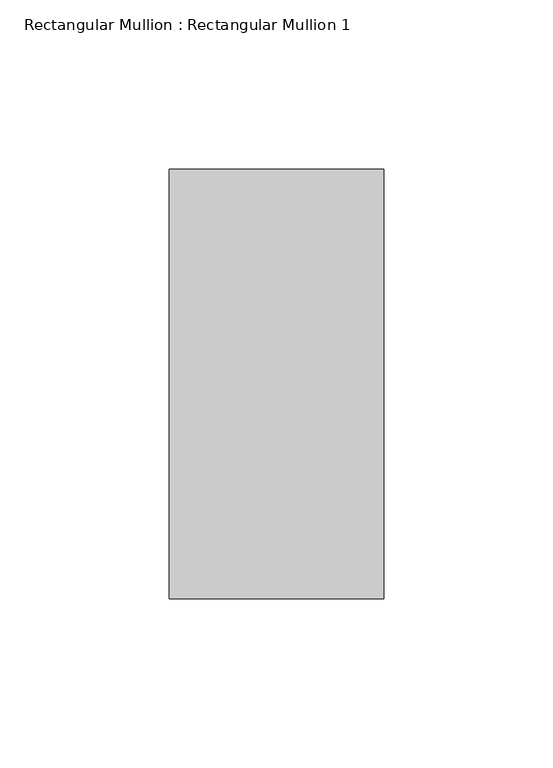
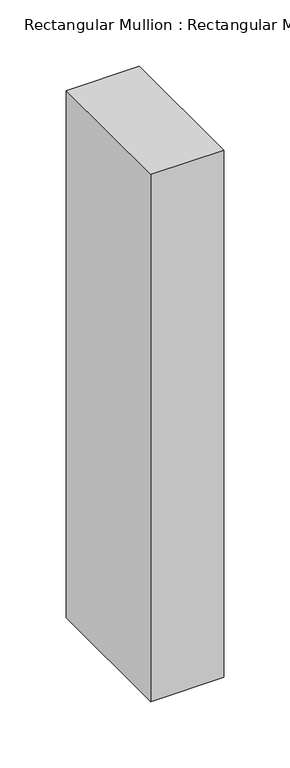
"""IFC4 building model written with IfcOpenShell, lengths in millimetres: member geometry, Rectangular Mullion : Rectangular Mullion 1."""

from ifc_helpers import new_model, si_unit, frame, origin, place, context, project, spatial, polyline, outline, extrude, source, transform, mapped, element, save


def rectangular_mullion_rectangular_mullion_1_ac8843ff(model_context):
    return source(origin(), model_context, "Body", "SweptSolid", [
        extrude(outline(polyline([(31.75, 63.5), (31.75, -63.5), (-31.75, -63.5), (-31.75, 63.5), (31.75, 63.5)])), frame((0.0, 0.0, -485.2473635), z_axis=(0.0, 0.0, 1.0), x_axis=(1.0, 0.0, 0.0)), (0.0, 0.0, 1.0), 485.2473635),
    ])


if __name__ == "__main__":
    model = new_model("IFC4")
    model_context = context("Model", 3, world=origin())
    ifc_project = project(units=[si_unit("LENGTHUNIT", "METRE", prefix="MILLI")], contexts=[model_context])
    site = spatial("IfcSite", under=ifc_project)
    building = spatial("IfcBuilding", under=site)
    placement = place(None, origin())
    rectangular_mullion_rectangular_mullion_1_shape = rectangular_mullion_rectangular_mullion_1_ac8843ff(model_context)
    element("IfcMember", 1, ObjectType="Rectangular Mullion : Rectangular Mullion 1", at=placement, inside=building, context=model_context, shape_type="MappedRepresentation", body=[
        mapped(rectangular_mullion_rectangular_mullion_1_shape, transform((0.0, 0.0, 0.0), x_axis=(1.0, 0.0, 0.0), y_axis=(0.0, 1.0, 0.0), z_axis=(0.0, 0.0, 1.0))),
    ])
    save(model, "model.ifc")
